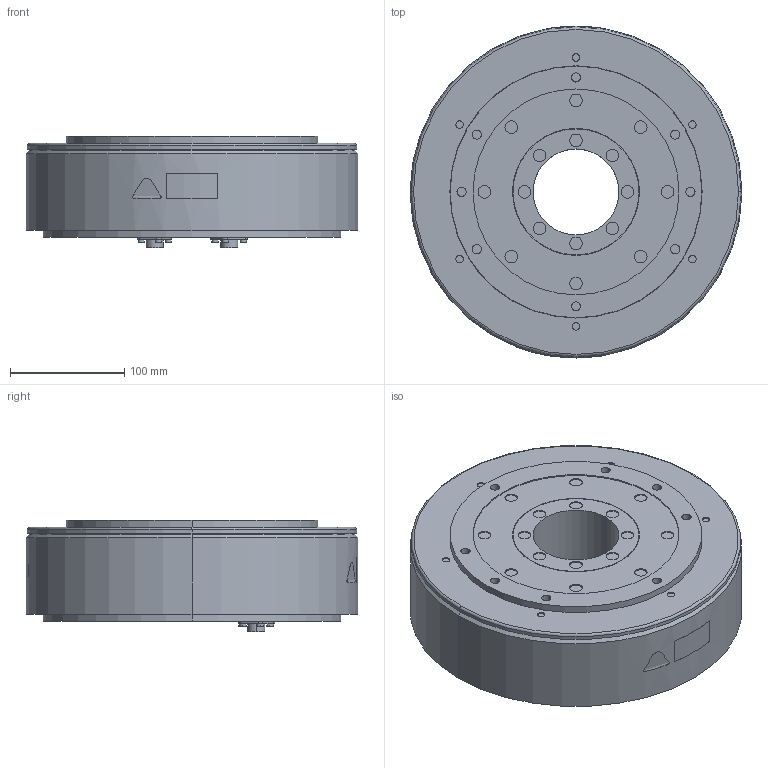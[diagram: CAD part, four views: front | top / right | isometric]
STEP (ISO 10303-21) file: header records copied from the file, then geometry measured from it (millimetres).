
FILE_DESCRIPTION (( 'STEP AP203' ), '1' );
FILE_NAME ('sgm7e_16e_a1_.STEP', '2016-03-17T07:13:13', ( '' ), ( '' ), 'SwSTEP 2.0', 'SolidWorks 2010', '' );
FILE_SCHEMA (( 'CONFIG_CONTROL_DESIGN' ));
Length unit declared in the file: millimetre
Products named in the file (1): sgm7e_16e_a1_
Bounding box: 290 x 290 x 97.1 mm (x, y, z)
Volume: 5132433.7 mm3; surface area: 234189.4 mm2
Topology: 1 solids, 1 shells, 336 faces, 730 edges, 484 vertices
Faces by surface type: cylinder 189, plane 136, bspline 5, cone 4, torus 2
Entity records: 9737 total; most frequent: CARTESIAN_POINT 1912, DIRECTION 1778, ORIENTED_EDGE 1460, AXIS2_PLACEMENT_3D 732, EDGE_CURVE 730, VERTEX_POINT 484, EDGE_LOOP 426, CIRCLE 400
